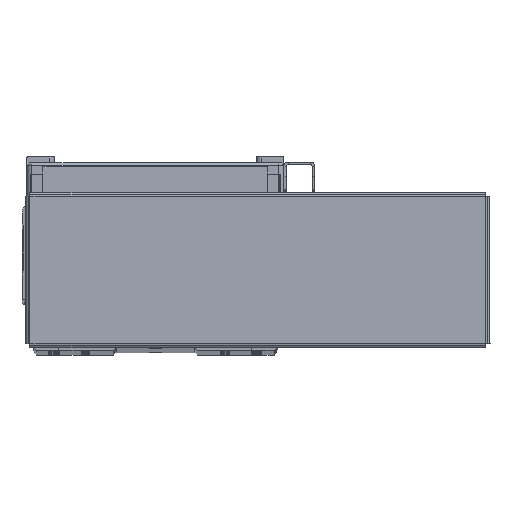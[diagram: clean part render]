
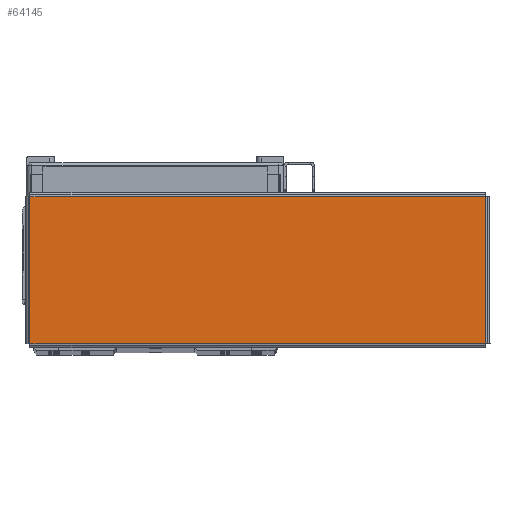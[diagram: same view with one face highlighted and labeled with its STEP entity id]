
A CAD part, top view. The second image highlights one B-rep face of the part: STEP entity #64145.
In plain terms, the highlighted planar face has unit normal (0, 0, 1) as drawn and (0, -1, 0) by its records, which use the part's own axes.
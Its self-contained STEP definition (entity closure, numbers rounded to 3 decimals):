
#4771 = CARTESIAN_POINT ( 'NONE',  ( -92.263, -1., 29.763 ) ) ;
#4847 = CARTESIAN_POINT ( 'NONE',  ( 92.263, -1., -29.763 ) ) ;
#4902 = CARTESIAN_POINT ( 'NONE',  ( -92.263, -1., -29.763 ) ) ;
#4923 = CARTESIAN_POINT ( 'NONE',  ( 92.263, -1., 29.763 ) ) ;
#5450 = EDGE_LOOP ( 'NONE', ( #61490, #61468, #61390, #61437 ) ) ;
#7371 = LINE ( 'NONE', #20912, #7372 ) ;
#7372 = VECTOR ( 'NONE', #20983, 1000. ) ;
#8444 = VERTEX_POINT ( 'NONE', #4771 ) ;
#8456 = VERTEX_POINT ( 'NONE', #4847 ) ;
#8481 = VERTEX_POINT ( 'NONE', #4923 ) ;
#8512 = VERTEX_POINT ( 'NONE', #4902 ) ;
#20912 = CARTESIAN_POINT ( 'NONE',  ( -92.263, -1., 29.793 ) ) ;
#20983 = DIRECTION ( 'NONE',  ( 0., 0., -1. ) ) ;
#21021 = CARTESIAN_POINT ( 'NONE',  ( 92.263, -1., -29.793 ) ) ;
#21023 = DIRECTION ( 'NONE',  ( 0., 0., 1. ) ) ;
#26922 = FACE_OUTER_BOUND ( 'NONE', #5450, .T. ) ;
#31908 = DIRECTION ( 'NONE',  ( 0., 1., 0. ) ) ;
#31920 = PLANE ( 'NONE',  #34559 ) ;
#31925 = CARTESIAN_POINT ( 'NONE',  ( 0., -1., 0. ) ) ;
#31926 = DIRECTION ( 'NONE',  ( 0., 0., 1. ) ) ;
#34559 = AXIS2_PLACEMENT_3D ( 'NONE', #31925, #31908, #31926 ) ;
#41349 = EDGE_CURVE ( 'NONE', #8444, #8512, #7371, .T. ) ;
#41386 = EDGE_CURVE ( 'NONE', #8456, #8481, #62845, .T. ) ;
#41452 = EDGE_CURVE ( 'NONE', #8481, #8444, #63100, .T. ) ;
#44445 = EDGE_CURVE ( 'NONE', #8512, #8456, #59762, .T. ) ;
#50659 = CARTESIAN_POINT ( 'NONE',  ( -92.293, -1., -29.763 ) ) ;
#50691 = DIRECTION ( 'NONE',  ( 1., 0., 0. ) ) ;
#57265 = CARTESIAN_POINT ( 'NONE',  ( 92.293, -1., 29.763 ) ) ;
#57309 = DIRECTION ( 'NONE',  ( -1., 0., 0. ) ) ;
#59762 = LINE ( 'NONE', #50659, #59779 ) ;
#59779 = VECTOR ( 'NONE', #50691, 1000. ) ;
#61390 = ORIENTED_EDGE ( 'NONE', *, *, #41452, .T. ) ;
#61437 = ORIENTED_EDGE ( 'NONE', *, *, #41349, .T. ) ;
#61468 = ORIENTED_EDGE ( 'NONE', *, *, #41386, .T. ) ;
#61490 = ORIENTED_EDGE ( 'NONE', *, *, #44445, .T. ) ;
#62845 = LINE ( 'NONE', #21021, #62949 ) ;
#62949 = VECTOR ( 'NONE', #21023, 1000. ) ;
#62995 = VECTOR ( 'NONE', #57309, 1000. ) ;
#63100 = LINE ( 'NONE', #57265, #62995 ) ;
#64145 = ADVANCED_FACE ( 'NONE', ( #26922 ), #31920, .F. ) ;
